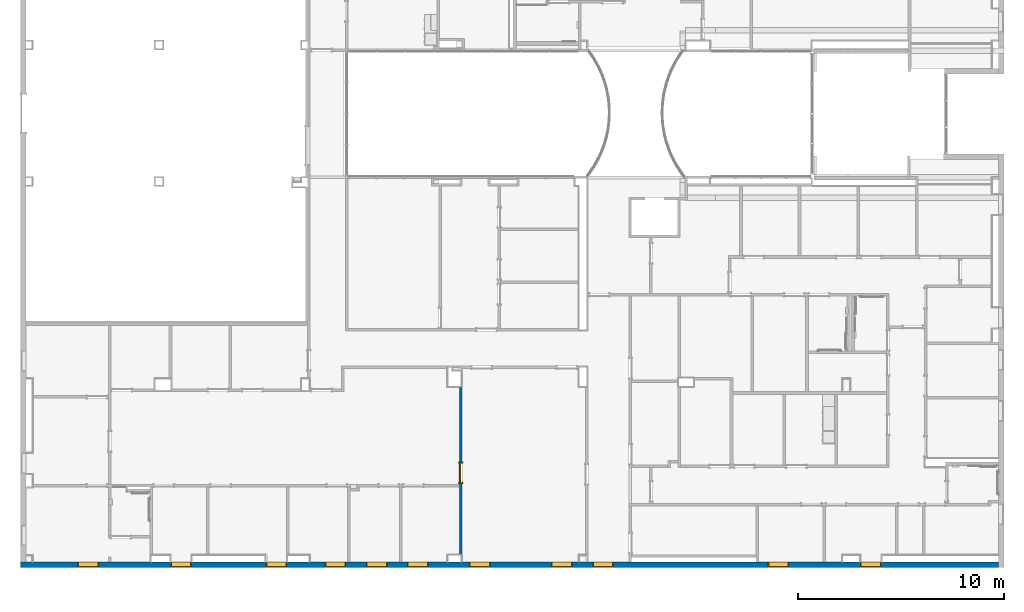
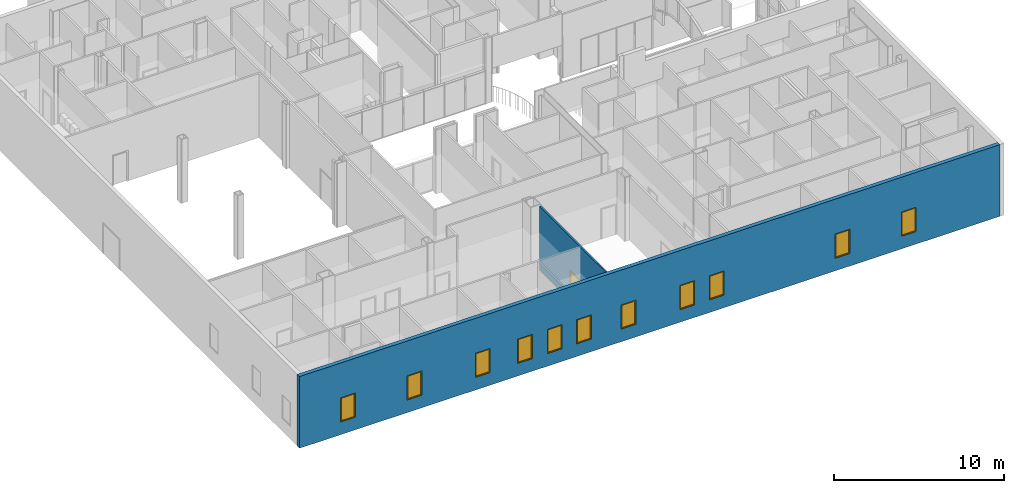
# One storey, part 8 of 45: 11 windows, 2 walls, 1 door, 12 openings.
"""IFC2X3 building model written with IfcOpenShell, lengths in metres."""

from ifc_helpers import new_model, entity, si_unit, converted_unit, frame, frame_2d, origin, origin_2d_with_axis, place, context, project, spatial, polyline, rectangle, outline, extrude, source, transform, mapped, material, layer, layer_set, layer_usage, type_object, type_shapes, element, fill, save


model = new_model("IFC2X3")

# Units and contexts
model_context = context("Model", 3, precision=1e-09, world=origin())
plan_context = context("Plan", 3, precision=1e-09, world=origin())
ifc_project = project(units=[si_unit("LENGTHUNIT", "METRE"), si_unit("AREAUNIT", "SQUARE_METRE"), si_unit("VOLUMEUNIT", "CUBIC_METRE"), converted_unit("PLANEANGLEUNIT", "DEGREE", entity("IfcRatioMeasure", 0.01745329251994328), si_unit("PLANEANGLEUNIT", "RADIAN"), dimensions=[0, 0, 0, 0, 0, 0, 0]), si_unit("TIMEUNIT", "SECOND")], contexts=[model_context, plan_context])

# Site, building, storey
site_placement = place(None, origin())
site = spatial("IfcSite", under=ifc_project, at=site_placement, Name="Default", CompositionType="ELEMENT")
building_placement = place(site_placement, origin())
building = spatial("IfcBuilding", under=site, at=building_placement, CompositionType="ELEMENT")
storey_placement = place(building_placement, frame((0.0, 0.0, 4.570000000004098)))
storey = spatial("IfcBuildingStorey", under=building, at=storey_placement, Name="Second Floor", CompositionType="ELEMENT", Elevation=4.570000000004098)

# Wall, openings, windows
ifc_material_1 = material(Name="Insulation - Insulated Panel")
ifc_layer_1 = layer(ifc_material_1, 0.042)
ifc_material_2 = material(Name="Metal - Firring")
ifc_layer_2 = layer(ifc_material_2, 0.038)
ifc_material_3 = material(Name="Wood - Sheathing - plywood")
ifc_layer_3 = layer(ifc_material_3, 0.019)
ifc_material_4 = material(Name="Metal - Stud Layer")
ifc_layer_4 = layer(ifc_material_4, 0.152)
ifc_material_5 = material(Name="Plasterboard")
ifc_layer_5 = layer(ifc_material_5, 0.016)
ifc_layer_set_1 = layer_set([ifc_layer_1, ifc_layer_2, ifc_layer_3, ifc_layer_4, ifc_layer_5], Name="Basic Wall:Exterior - Insul Panel on Mtl. Stud")
ifc_layer_usage_1 = layer_usage(ifc_layer_set_1, "AXIS2", "NEGATIVE", 0.1335)
wall_1_placement = place(storey_placement, frame((0.1129999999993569, 9.793499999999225, 0.0), z_axis=(0.0, 0.0, 1.0), x_axis=(-1.0, 0.0, 0.0)))
wall_1 = element("IfcWallStandardCase", 1, at=wall_1_placement, inside=storey, material=ifc_layer_usage_1, Name="Basic Wall:Exterior - Insul Panel on Mtl. Stud", ObjectType="Basic Wall:Exterior - Insul Panel on Mtl. Stud", context=model_context, shape_type="SweptSolid", body=[
    extrude(rectangle(XDim=47.493, YDim=0.2669999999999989, at=frame_2d((23.7465, 0.0), x_axis=(-1.0, 0.0))), origin(), (0.0, 0.0, 1.0), 5.136999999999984),
])
opening_1_placement = place(wall_1_placement, frame((43.70299999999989, -0.133500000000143, 0.905)))
opening_1 = element("IfcOpeningElement", 2, at=opening_1_placement, cuts=wall_1, Name="M_Fixed:1735 x 1000mm:1735 x 1000mm:1", ObjectType="Opening", context=model_context, shape_type="SweptSolid", body=[
    extrude(rectangle(XDim=1.734999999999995, YDim=0.9999999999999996, at=frame_2d((0.8674999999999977, 0.4999999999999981), x_axis=(1.0, 0.0))), frame((0.0, 0.0, 0.0), z_axis=(0.0, 1.0, 0.0), x_axis=(0.0, 0.0, 1.0)), (0.0, 0.0, 1.0), 0.267),
])
opening_2_placement = place(wall_1_placement, frame((31.70199999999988, -0.133500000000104, 0.905)))
opening_2 = element("IfcOpeningElement", 3, at=opening_2_placement, cuts=wall_1, Name="M_Fixed:1735 x 1000mm:1735 x 1000mm:1", ObjectType="Opening", context=model_context, shape_type="SweptSolid", body=[
    extrude(rectangle(XDim=1.734999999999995, YDim=0.9999999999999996, at=frame_2d((0.8674999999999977, 0.4999999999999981), x_axis=(1.0, 0.0))), frame((0.0, 0.0, 0.0), z_axis=(0.0, 1.0, 0.0), x_axis=(0.0, 0.0, 1.0)), (0.0, 0.0, 1.0), 0.267),
])
opening_3_placement = place(wall_1_placement, frame((39.19630308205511, -0.1335000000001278, 0.905)))
opening_3 = element("IfcOpeningElement", 4, at=opening_3_placement, cuts=wall_1, Name="M_Fixed:1735 x 1000mm:1735 x 1000mm:1", ObjectType="Opening", context=model_context, shape_type="SweptSolid", body=[
    extrude(rectangle(XDim=1.734999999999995, YDim=0.9999999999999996, at=frame_2d((0.8674999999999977, 0.4999999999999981), x_axis=(1.0, 0.0))), frame((0.0, 0.0, 0.0), z_axis=(0.0, 1.0, 0.0), x_axis=(0.0, 0.0, 1.0)), (0.0, 0.0, 1.0), 0.267),
])
opening_4_placement = place(wall_1_placement, frame((10.18900016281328, -0.1335000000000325, 0.905)))
opening_4 = element("IfcOpeningElement", 5, at=opening_4_placement, cuts=wall_1, Name="M_Fixed:1735 x 1000mm:1735 x 1000mm:1", ObjectType="Opening", context=model_context, shape_type="SweptSolid", body=[
    extrude(rectangle(XDim=1.734999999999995, YDim=0.9999999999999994, at=frame_2d((0.8674999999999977, 0.5000000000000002), x_axis=(1.0, 0.0))), frame((0.0, 0.0, 0.0), z_axis=(0.0, 1.0, 0.0), x_axis=(0.0, 0.0, 1.0)), (0.0, 0.0, 1.0), 0.267),
])
opening_5_placement = place(wall_1_placement, frame((18.70299999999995, -0.1335000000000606, 0.905)))
opening_5 = element("IfcOpeningElement", 6, at=opening_5_placement, cuts=wall_1, Name="M_Fixed:1735 x 1000mm:1735 x 1000mm:1", ObjectType="Opening", context=model_context, shape_type="SweptSolid", body=[
    extrude(rectangle(XDim=1.734999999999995, YDim=0.9999999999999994, at=frame_2d((0.8674999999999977, 0.5000000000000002), x_axis=(1.0, 0.0))), frame((0.0, 0.0, 0.0), z_axis=(0.0, 1.0, 0.0), x_axis=(0.0, 0.0, 1.0)), (0.0, 0.0, 1.0), 0.267),
])
opening_6_placement = place(wall_1_placement, frame((24.69299999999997, -0.1335000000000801, 0.905)))
opening_6 = element("IfcOpeningElement", 7, at=opening_6_placement, cuts=wall_1, Name="M_Fixed:1735 x 1000mm:1735 x 1000mm:1", ObjectType="Opening", context=model_context, shape_type="SweptSolid", body=[
    extrude(rectangle(XDim=1.734999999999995, YDim=0.9999999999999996, at=frame_2d((0.8674999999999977, 0.4999999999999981), x_axis=(1.0, 0.0))), frame((0.0, 0.0, 0.0), z_axis=(0.0, 1.0, 0.0), x_axis=(0.0, 0.0, 1.0)), (0.0, 0.0, 1.0), 0.267),
])
opening_7_placement = place(wall_1_placement, frame((20.70699999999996, -0.1335000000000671, 0.905)))
opening_7 = element("IfcOpeningElement", 8, at=opening_7_placement, cuts=wall_1, Name="M_Fixed:1735 x 1000mm:1735 x 1000mm:1", ObjectType="Opening", context=model_context, shape_type="SweptSolid", body=[
    extrude(rectangle(XDim=1.734999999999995, YDim=0.9999999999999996, at=frame_2d((0.8674999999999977, 0.4999999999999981), x_axis=(1.0, 0.0))), frame((0.0, 0.0, 0.0), z_axis=(0.0, 1.0, 0.0), x_axis=(0.0, 0.0, 1.0)), (0.0, 0.0, 1.0), 0.267),
])
opening_8_placement = place(wall_1_placement, frame((27.70799999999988, -0.133500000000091, 0.905)))
opening_8 = element("IfcOpeningElement", 9, at=opening_8_placement, cuts=wall_1, Name="M_Fixed:1735 x 1000mm:1735 x 1000mm:1", ObjectType="Opening", context=model_context, shape_type="SweptSolid", body=[
    extrude(rectangle(XDim=1.734999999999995, YDim=0.9999999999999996, at=frame_2d((0.8674999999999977, 0.4999999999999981), x_axis=(1.0, 0.0))), frame((0.0, 0.0, 0.0), z_axis=(0.0, 1.0, 0.0), x_axis=(0.0, 0.0, 1.0)), (0.0, 0.0, 1.0), 0.267),
])
opening_9_placement = place(wall_1_placement, frame((5.698003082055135, -0.1335000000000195, 0.905)))
opening_9 = element("IfcOpeningElement", 10, at=opening_9_placement, cuts=wall_1, Name="M_Fixed:1735 x 1000mm:1735 x 1000mm:1", ObjectType="Opening", context=model_context, shape_type="SweptSolid", body=[
    extrude(rectangle(XDim=1.734999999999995, YDim=0.9999999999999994, at=frame_2d((0.8674999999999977, 0.5000000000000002), x_axis=(1.0, 0.0))), frame((0.0, 0.0, 0.0), z_axis=(0.0, 1.0, 0.0), x_axis=(0.0, 0.0, 1.0)), (0.0, 0.0, 1.0), 0.267),
])
opening_10_placement = place(wall_1_placement, frame((34.56704823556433, -0.1335000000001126, 0.905)))
opening_10 = element("IfcOpeningElement", 11, at=opening_10_placement, cuts=wall_1, Name="M_Fixed:1735 x 1000mm:1735 x 1000mm:1", ObjectType="Opening", context=model_context, shape_type="SweptSolid", body=[
    extrude(rectangle(XDim=1.734999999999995, YDim=0.9999999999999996, at=frame_2d((0.8674999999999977, 0.4999999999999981), x_axis=(1.0, 0.0))), frame((0.0, 0.0, 0.0), z_axis=(0.0, 1.0, 0.0), x_axis=(0.0, 0.0, 1.0)), (0.0, 0.0, 1.0), 0.267),
])
opening_11_placement = place(wall_1_placement, frame((29.69199999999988, -0.1335000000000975, 0.905)))
opening_11 = element("IfcOpeningElement", 12, at=opening_11_placement, cuts=wall_1, Name="M_Fixed:1735 x 1000mm:1735 x 1000mm:1", ObjectType="Opening", context=model_context, shape_type="SweptSolid", body=[
    extrude(rectangle(XDim=1.734999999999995, YDim=0.9999999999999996, at=frame_2d((0.8674999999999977, 0.4999999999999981), x_axis=(1.0, 0.0))), frame((0.0, 0.0, 0.0), z_axis=(0.0, 1.0, 0.0), x_axis=(0.0, 0.0, 1.0)), (0.0, 0.0, 1.0), 0.267),
])
window_style = type_object("IfcWindowStyle", Name="1735 x 1000mm", ConstructionType="NOTDEFINED", OperationType="NOTDEFINED", ParameterTakesPrecedence=False, Sizeable=False)
shared_shape_1 = source(origin(), model_context, "Body", "SweptSolid", [
    extrude(rectangle(XDim=0.012, YDim=0.873999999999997, at=origin_2d_with_axis()), frame((0.5000000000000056, 0.2259999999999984, 0.06299999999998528), z_axis=(0.0, 0.0, 1.0), x_axis=(0.0, -1.0, 0.0)), (0.0, 0.0, 1.0), 1.609000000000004),
    extrude(outline(polyline([(-0.4809999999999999, -0.8485000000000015), (0.4809999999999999, -0.8485000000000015), (0.4809999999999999, 0.8485000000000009), (-0.4809999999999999, 0.8485000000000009), (-0.4809999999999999, -0.8485000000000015)]), holes=[polyline([(-0.4369999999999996, -0.8045000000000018), (-0.4369999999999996, 0.8045000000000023), (0.4369999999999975, 0.8045000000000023), (0.4369999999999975, -0.8045000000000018), (-0.4369999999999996, -0.8045000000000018)])]), frame((0.5000000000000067, 0.203999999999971, 0.8674999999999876), z_axis=(0.0, 1.0, 0.0), x_axis=(1.0, 0.0, 0.0)), (0.0, 0.0, 1.0), 0.04400000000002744),
    extrude(outline(polyline([(-0.4999999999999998, -0.8674999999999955), (0.4999999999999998, -0.8674999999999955), (0.4999999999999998, 0.8674999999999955), (-0.4999999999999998, 0.8674999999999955), (-0.4999999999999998, -0.8674999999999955)]), holes=[polyline([(-0.4810000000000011, -0.8484999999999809), (-0.4810000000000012, 0.8485000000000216), (0.4809999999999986, 0.8485000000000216), (0.4809999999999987, -0.8484999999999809), (-0.4810000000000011, -0.8484999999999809)])]), frame((0.500000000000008, 0.203999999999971, 0.8675000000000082), z_axis=(0.0, 1.0, 0.0), x_axis=(1.0, 0.0, 0.0)), (0.0, 0.0, 1.0), 0.06300000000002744),
    extrude(outline(polyline([(-0.5000000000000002, -0.867499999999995), (0.5000000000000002, -0.867499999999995), (0.5000000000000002, 0.867499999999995), (-0.5000000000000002, 0.867499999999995), (-0.5000000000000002, -0.867499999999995)]), holes=[polyline([(-0.4679999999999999, -0.8354999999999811), (-0.4679999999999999, 0.8355000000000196), (0.4680000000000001, 0.8355000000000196), (0.4680000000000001, -0.8354999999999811), (-0.4679999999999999, -0.8354999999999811)])]), frame((0.5000000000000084, 0.0, 0.8675000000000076), z_axis=(0.0, 1.0, 0.0), x_axis=(1.0, 0.0, 0.0)), (0.0, 0.0, 1.0), 0.2039999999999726),
])
type_shapes(window_style, [shared_shape_1])
window_1_placement = place(opening_11_placement, origin())
window_1 = element("IfcWindow", 13, at=window_1_placement, inside=storey, type_object=window_style, Name="M_Fixed:1735 x 1000mm:1735 x 1000mm", ObjectType="1735 x 1000mm", OverallHeight=1.734999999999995, OverallWidth=0.9999999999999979, context=model_context, shape_type="MappedRepresentation", body=[
    mapped(shared_shape_1, transform((0.0, 0.0, 0.0), scale=1.0)),
])
fill(opening_11, window_1)
window_2_placement = place(opening_8_placement, origin())
window_2 = element("IfcWindow", 14, at=window_2_placement, inside=storey, type_object=window_style, Name="M_Fixed:1735 x 1000mm:1735 x 1000mm", ObjectType="1735 x 1000mm", OverallHeight=1.734999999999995, OverallWidth=0.9999999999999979, context=model_context, shape_type="MappedRepresentation", body=[
    mapped(shared_shape_1, transform((0.0, 0.0, 0.0), scale=1.0)),
])
fill(opening_8, window_2)
window_3_placement = place(opening_6_placement, origin())
window_3 = element("IfcWindow", 15, at=window_3_placement, inside=storey, type_object=window_style, Name="M_Fixed:1735 x 1000mm:1735 x 1000mm", ObjectType="1735 x 1000mm", OverallHeight=1.734999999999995, OverallWidth=0.9999999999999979, context=model_context, shape_type="MappedRepresentation", body=[
    mapped(shared_shape_1, transform((0.0, 0.0, 0.0), scale=1.0)),
])
fill(opening_6, window_3)
window_4_placement = place(opening_7_placement, origin())
window_4 = element("IfcWindow", 16, at=window_4_placement, inside=storey, type_object=window_style, Name="M_Fixed:1735 x 1000mm:1735 x 1000mm", ObjectType="1735 x 1000mm", OverallHeight=1.734999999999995, OverallWidth=0.9999999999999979, context=model_context, shape_type="MappedRepresentation", body=[
    mapped(shared_shape_1, transform((0.0, 0.0, 0.0), scale=1.0)),
])
fill(opening_7, window_4)
window_5_placement = place(opening_10_placement, origin())
window_5 = element("IfcWindow", 17, at=window_5_placement, inside=storey, type_object=window_style, Name="M_Fixed:1735 x 1000mm:1735 x 1000mm", ObjectType="1735 x 1000mm", OverallHeight=1.734999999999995, OverallWidth=0.9999999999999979, context=model_context, shape_type="MappedRepresentation", body=[
    mapped(shared_shape_1, transform((0.0, 0.0, 0.0), scale=1.0)),
])
fill(opening_10, window_5)
window_6_placement = place(opening_2_placement, origin())
window_6 = element("IfcWindow", 18, at=window_6_placement, inside=storey, type_object=window_style, Name="M_Fixed:1735 x 1000mm:1735 x 1000mm", ObjectType="1735 x 1000mm", OverallHeight=1.734999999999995, OverallWidth=0.9999999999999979, context=model_context, shape_type="MappedRepresentation", body=[
    mapped(shared_shape_1, transform((0.0, 0.0, 0.0), scale=1.0)),
])
fill(opening_2, window_6)
window_7_placement = place(opening_3_placement, origin())
window_7 = element("IfcWindow", 19, at=window_7_placement, inside=storey, type_object=window_style, Name="M_Fixed:1735 x 1000mm:1735 x 1000mm", ObjectType="1735 x 1000mm", OverallHeight=1.734999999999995, OverallWidth=0.9999999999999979, context=model_context, shape_type="MappedRepresentation", body=[
    mapped(shared_shape_1, transform((0.0, 0.0, 0.0), scale=1.0)),
])
fill(opening_3, window_7)
window_8_placement = place(opening_1_placement, origin())
window_8 = element("IfcWindow", 20, at=window_8_placement, inside=storey, type_object=window_style, Name="M_Fixed:1735 x 1000mm:1735 x 1000mm", ObjectType="1735 x 1000mm", OverallHeight=1.734999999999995, OverallWidth=0.9999999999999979, context=model_context, shape_type="MappedRepresentation", body=[
    mapped(shared_shape_1, transform((0.0, 0.0, 0.0), scale=1.0)),
])
fill(opening_1, window_8)
window_9_placement = place(opening_9_placement, origin())
window_9 = element("IfcWindow", 21, at=window_9_placement, inside=storey, type_object=window_style, Name="M_Fixed:1735 x 1000mm:1735 x 1000mm", ObjectType="1735 x 1000mm", OverallHeight=1.734999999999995, OverallWidth=1.0, context=model_context, shape_type="MappedRepresentation", body=[
    mapped(shared_shape_1, transform((0.0, 0.0, 0.0), scale=1.0)),
])
fill(opening_9, window_9)
window_10_placement = place(opening_5_placement, origin())
window_10 = element("IfcWindow", 22, at=window_10_placement, inside=storey, type_object=window_style, Name="M_Fixed:1735 x 1000mm:1735 x 1000mm", ObjectType="1735 x 1000mm", OverallHeight=1.734999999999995, OverallWidth=1.0, context=model_context, shape_type="MappedRepresentation", body=[
    mapped(shared_shape_1, transform((0.0, 0.0, 0.0), scale=1.0)),
])
fill(opening_5, window_10)
window_11_placement = place(opening_4_placement, origin())
window_11 = element("IfcWindow", 23, at=window_11_placement, inside=storey, type_object=window_style, Name="M_Fixed:1735 x 1000mm:1735 x 1000mm", ObjectType="1735 x 1000mm", OverallHeight=1.734999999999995, OverallWidth=1.0, context=model_context, shape_type="MappedRepresentation", body=[
    mapped(shared_shape_1, transform((0.0, 0.0, 0.0), scale=1.0)),
])
fill(opening_4, window_11)

# Wall, opening, door
ifc_layer_6 = layer(ifc_material_5, 0.016)
ifc_layer_7 = layer(ifc_material_4, 0.092)
ifc_layer_8 = layer(ifc_material_5, 0.016)
ifc_layer_set_2 = layer_set([ifc_layer_6, ifc_layer_7, ifc_layer_8], Name="Basic Wall:Interior - Partition (92mm Stud)")
ifc_layer_usage_2 = layer_usage(ifc_layer_set_2, "AXIS2", "NEGATIVE", 0.062)
wall_2_placement = place(storey_placement, frame((-26.0020000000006, 18.41443871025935, 0.0), z_axis=(0.0, 0.0, 1.0), x_axis=(0.0, -1.0, 0.0)))
wall_2 = element("IfcWallStandardCase", 24, at=wall_2_placement, inside=storey, material=ifc_layer_usage_2, Name="Basic Wall:Interior - Partition (92mm Stud)", ObjectType="Basic Wall:Interior - Partition (92mm Stud)", context=model_context, shape_type="SweptSolid", body=[
    extrude(rectangle(XDim=8.107438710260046, YDim=0.1239999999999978, at=frame_2d((4.053719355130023, 0.0), x_axis=(-1.0, 0.0))), origin(), (0.0, 0.0, 1.0), 4.577999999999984),
])
opening_12_placement = place(wall_2_placement, frame((4.6100000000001, 0.06199999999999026, 0.0)))
opening_12 = element("IfcOpeningElement", 25, at=opening_12_placement, cuts=wall_2, Name="M_Single-Flush:0915 x 2134mm:0915 x 2134mm:1", ObjectType="Opening", context=model_context, shape_type="SweptSolid", body=[
    extrude(rectangle(XDim=0.9149999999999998, YDim=2.134, at=frame_2d((1.067, 0.4574999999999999), x_axis=(0.0, -1.0))), frame((0.0, 0.0, 0.0), z_axis=(0.0, -1.0, 0.0), x_axis=(0.0, 0.0, 1.0)), (0.0, 0.0, 1.0), 0.124),
])
door_style = type_object("IfcDoorStyle", Name="0915 x 2134mm", ConstructionType="NOTDEFINED", OperationType="SINGLE_SWING_LEFT", ParameterTakesPrecedence=False, Sizeable=False)
shared_shape_2 = source(origin(), model_context, "Body", "SweptSolid", [
    extrude(outline(polyline([(-0.5335, -1.123999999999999), (0.5334999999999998, -1.123999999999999), (0.5334999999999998, 1.086), (0.4574999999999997, 1.086), (0.4574999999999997, -1.048000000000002), (-0.4574999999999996, -1.048000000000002), (-0.4574999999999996, 1.086), (-0.5335, 1.086), (-0.5335, -1.123999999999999)])), frame((0.4575000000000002, 0.1489999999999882, 1.086), z_axis=(0.0, -1.0, 0.0), x_axis=(-1.0, 0.0, 0.0)), (0.0, 0.0, 1.0), 0.02499999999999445),
    extrude(outline(polyline([(-1.123999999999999, -0.5334999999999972), (1.085999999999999, -0.5334999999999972), (1.085999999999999, -0.4575000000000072), (-1.048, -0.4575000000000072), (-1.048, 0.4575000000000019), (1.085999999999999, 0.4575000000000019), (1.085999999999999, 0.5335000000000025), (-1.123999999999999, 0.5335000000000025), (-1.123999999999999, -0.5334999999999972)])), frame((0.4574999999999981, 0.0, 1.085999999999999), z_axis=(0.0, -1.0, 0.0), x_axis=(0.0, 0.0, -1.0)), (0.0, 0.0, 1.0), 0.02500000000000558),
    extrude(rectangle(XDim=0.9149999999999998, YDim=0.051, at=origin_2d_with_axis()), frame((0.4575000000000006, 0.09849999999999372, 0.0)), (0.0, 0.0, 1.0), 2.133999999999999),
])
type_shapes(door_style, [shared_shape_2])
door_placement = place(opening_12_placement, frame((0.0, 0.0, 0.0), z_axis=(0.0, 0.0, 1.0), x_axis=(-1.0, 0.0, 0.0)))
door = element("IfcDoor", 26, at=door_placement, inside=storey, type_object=door_style, Name="M_Single-Flush:0915 x 2134mm:0915 x 2134mm", ObjectType="0915 x 2134mm", OverallHeight=2.134, OverallWidth=0.9149999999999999, context=model_context, shape_type="MappedRepresentation", body=[
    mapped(shared_shape_2, transform((0.0, 0.0, 0.0), scale=1.0)),
])
fill(opening_12, door)

save(model, "model.ifc")
